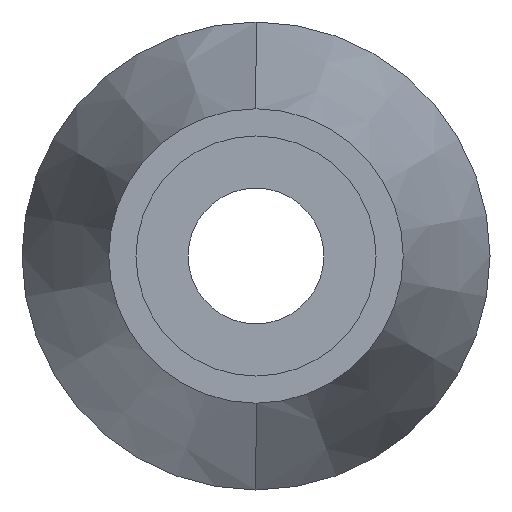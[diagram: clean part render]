
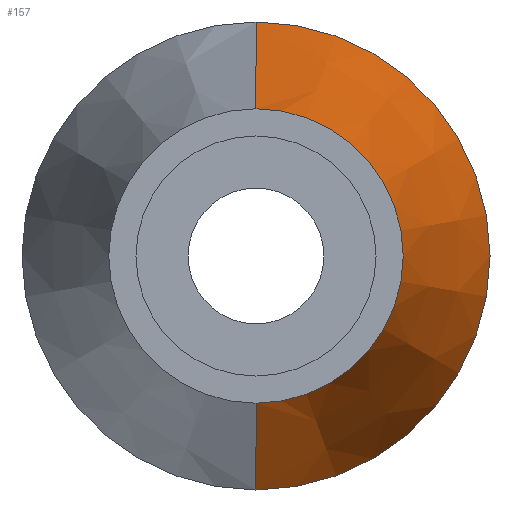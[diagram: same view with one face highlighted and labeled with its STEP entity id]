
A CAD part, left-side view. The second image highlights one B-rep face of the part: STEP entity #157.
In plain terms, the highlighted conical face has half-angle 15 degrees and reference radius 1.95 mm.
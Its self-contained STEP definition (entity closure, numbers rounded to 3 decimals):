
#12 = EDGE_LOOP ( 'NONE', ( #158, #215, #218, #221 ) ) ;
#157 = ADVANCED_FACE ( 'NONE', ( #589 ), #588, .T. ) ;
#158 = ORIENTED_EDGE ( 'NONE', *, *, #159, .F. ) ;
#159 = EDGE_CURVE ( 'NONE', #304, #305, #449, .T. ) ;
#215 = ORIENTED_EDGE ( 'NONE', *, *, #216, .T. ) ;
#216 = EDGE_CURVE ( 'NONE', #304, #217, #404, .T. ) ;
#217 = VERTEX_POINT ( 'NONE', #400 ) ;
#218 = ORIENTED_EDGE ( 'NONE', *, *, #219, .T. ) ;
#219 = EDGE_CURVE ( 'NONE', #217, #220, #399, .T. ) ;
#220 = VERTEX_POINT ( 'NONE', #544 ) ;
#221 = ORIENTED_EDGE ( 'NONE', *, *, #222, .F. ) ;
#222 = EDGE_CURVE ( 'NONE', #305, #220, #543, .T. ) ;
#304 = VERTEX_POINT ( 'NONE', #464 ) ;
#305 = VERTEX_POINT ( 'NONE', #459 ) ;
#399 = CIRCLE ( 'NONE', #548, 3.1 ) ;
#400 = CARTESIAN_POINT ( 'NONE',  ( 8.352, 0., -3.1 ) ) ;
#401 = DIRECTION ( 'NONE',  ( 0.966, 0., -0.259 ) ) ;
#402 = VECTOR ( 'NONE', #401, 1000. ) ;
#403 = CARTESIAN_POINT ( 'NONE',  ( 4.06, 0., -1.95 ) ) ;
#404 = LINE ( 'NONE', #403, #402 ) ;
#443 = DIRECTION ( 'NONE',  ( 0., 0., 1. ) ) ;
#444 = DIRECTION ( 'NONE',  ( -1., 0., 0. ) ) ;
#445 = CARTESIAN_POINT ( 'NONE',  ( 4.06, 0., 0. ) ) ;
#446 = AXIS2_PLACEMENT_3D ( 'NONE', #445, #444, #443 ) ;
#447 = DIRECTION ( 'NONE',  ( 0., 0., 1. ) ) ;
#448 = DIRECTION ( 'NONE',  ( 1., 0., 0. ) ) ;
#449 = CIRCLE ( 'NONE', #446, 1.95 ) ;
#459 = CARTESIAN_POINT ( 'NONE',  ( 4.06, 0., 1.95 ) ) ;
#464 = CARTESIAN_POINT ( 'NONE',  ( 4.06, 0., -1.95 ) ) ;
#540 = DIRECTION ( 'NONE',  ( 0.966, 0., 0.259 ) ) ;
#541 = VECTOR ( 'NONE', #540, 1000. ) ;
#542 = CARTESIAN_POINT ( 'NONE',  ( 4.06, 0., 1.95 ) ) ;
#543 = LINE ( 'NONE', #542, #541 ) ;
#544 = CARTESIAN_POINT ( 'NONE',  ( 8.352, 0., 3.1 ) ) ;
#545 = DIRECTION ( 'NONE',  ( 0., 0., -1. ) ) ;
#546 = DIRECTION ( 'NONE',  ( -1., 0., 0. ) ) ;
#547 = CARTESIAN_POINT ( 'NONE',  ( 8.352, 0., 0. ) ) ;
#548 = AXIS2_PLACEMENT_3D ( 'NONE', #547, #546, #545 ) ;
#586 = CARTESIAN_POINT ( 'NONE',  ( 4.06, 0., 0. ) ) ;
#587 = AXIS2_PLACEMENT_3D ( 'NONE', #586, #448, #447 ) ;
#588 = CONICAL_SURFACE ( 'NONE', #587, 1.95, 0.262 ) ;
#589 = FACE_OUTER_BOUND ( 'NONE', #12, .T. ) ;
